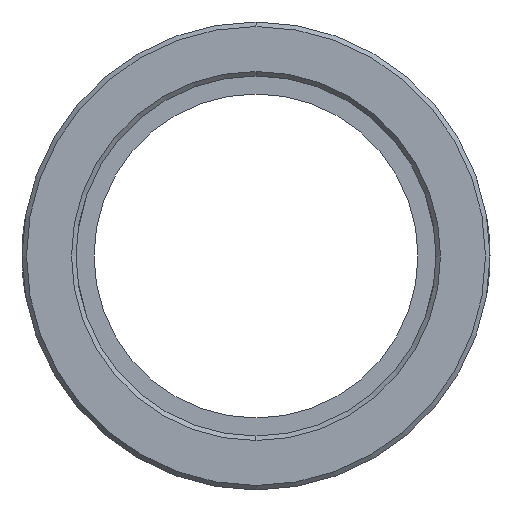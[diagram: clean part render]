
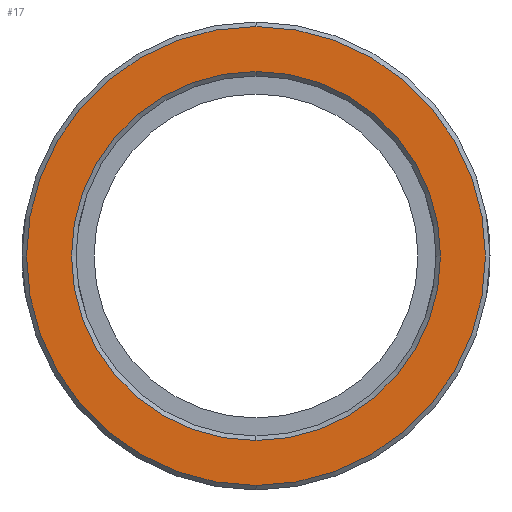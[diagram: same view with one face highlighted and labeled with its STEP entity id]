
A CAD part, left-side view. The second image highlights one B-rep face of the part: STEP entity #17.
In plain terms, the highlighted planar face has unit normal (-1, 0, 0).
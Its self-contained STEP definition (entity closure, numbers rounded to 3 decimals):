
#17 = ADVANCED_FACE ( 'NONE', ( #581, #31 ), #136, .F. ) ;
#31 = FACE_OUTER_BOUND ( 'NONE', #558, .T. ) ;
#32 = EDGE_CURVE ( 'NONE', #1212, #851, #1440, .T. ) ;
#38 = AXIS2_PLACEMENT_3D ( 'NONE', #220, #224, #228 ) ;
#40 = ORIENTED_EDGE ( 'NONE', *, *, #614, .T. ) ;
#70 = EDGE_CURVE ( 'NONE', #319, #1364, #1365, .T. ) ;
#134 = CARTESIAN_POINT ( 'NONE',  ( 0., 20., 0. ) ) ;
#136 = PLANE ( 'NONE',  #196 ) ;
#137 = DIRECTION ( 'NONE',  ( 1., 0., 0. ) ) ;
#139 = DIRECTION ( 'NONE',  ( 0., 0., -1. ) ) ;
#162 = CARTESIAN_POINT ( 'NONE',  ( 0., 0., 0. ) ) ;
#163 = DIRECTION ( 'NONE',  ( -1., 0., 0. ) ) ;
#165 = DIRECTION ( 'NONE',  ( 0., 0., -1. ) ) ;
#196 = AXIS2_PLACEMENT_3D ( 'NONE', #134, #137, #139 ) ;
#220 = CARTESIAN_POINT ( 'NONE',  ( 0., 0., 0. ) ) ;
#224 = DIRECTION ( 'NONE',  ( 1., 0., 0. ) ) ;
#228 = DIRECTION ( 'NONE',  ( 0., 0., -1. ) ) ;
#229 = AXIS2_PLACEMENT_3D ( 'NONE', #162, #163, #165 ) ;
#319 = VERTEX_POINT ( 'NONE', #754 ) ;
#354 = AXIS2_PLACEMENT_3D ( 'NONE', #647, #639, #635 ) ;
#558 = EDGE_LOOP ( 'NONE', ( #806, #40 ) ) ;
#581 = FACE_BOUND ( 'NONE', #712, .T. ) ;
#614 = EDGE_CURVE ( 'NONE', #851, #1212, #890, .T. ) ;
#635 = DIRECTION ( 'NONE',  ( 0., 0., -1. ) ) ;
#639 = DIRECTION ( 'NONE',  ( 1., 0., 0. ) ) ;
#647 = CARTESIAN_POINT ( 'NONE',  ( 0., 0., 0. ) ) ;
#695 = ORIENTED_EDGE ( 'NONE', *, *, #1466, .T. ) ;
#706 = CIRCLE ( 'NONE', #354, 20.5 ) ;
#712 = EDGE_LOOP ( 'NONE', ( #695, #1419 ) ) ;
#754 = CARTESIAN_POINT ( 'NONE',  ( 0., 0., -20.5 ) ) ;
#791 = AXIS2_PLACEMENT_3D ( 'NONE', #986, #1234, #982 ) ;
#806 = ORIENTED_EDGE ( 'NONE', *, *, #32, .T. ) ;
#851 = VERTEX_POINT ( 'NONE', #1302 ) ;
#890 = CIRCLE ( 'NONE', #791, 25.5 ) ;
#915 = CARTESIAN_POINT ( 'NONE',  ( 0., 0., 20.5 ) ) ;
#982 = DIRECTION ( 'NONE',  ( 0., 0., -1. ) ) ;
#986 = CARTESIAN_POINT ( 'NONE',  ( 0., 0., 0. ) ) ;
#1212 = VERTEX_POINT ( 'NONE', #1507 ) ;
#1234 = DIRECTION ( 'NONE',  ( -1., 0., 0. ) ) ;
#1302 = CARTESIAN_POINT ( 'NONE',  ( 0., 0., 25.5 ) ) ;
#1364 = VERTEX_POINT ( 'NONE', #915 ) ;
#1365 = CIRCLE ( 'NONE', #38, 20.5 ) ;
#1419 = ORIENTED_EDGE ( 'NONE', *, *, #70, .T. ) ;
#1440 = CIRCLE ( 'NONE', #229, 25.5 ) ;
#1466 = EDGE_CURVE ( 'NONE', #1364, #319, #706, .T. ) ;
#1507 = CARTESIAN_POINT ( 'NONE',  ( 0., 0., -25.5 ) ) ;
